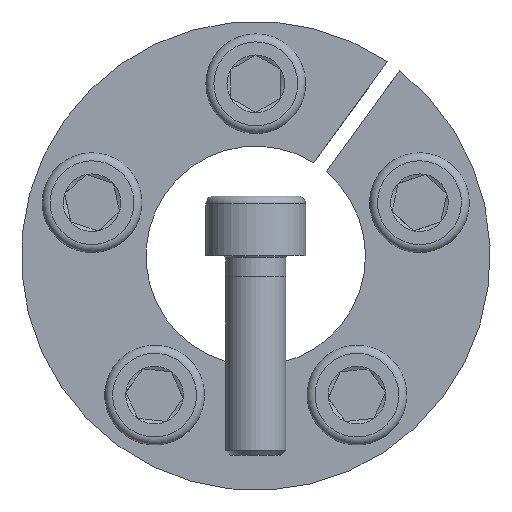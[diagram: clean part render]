
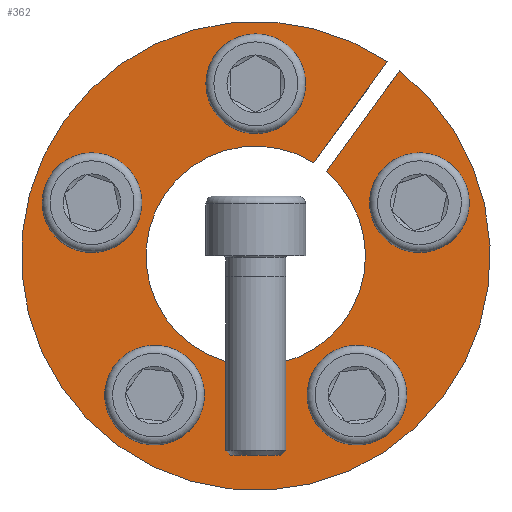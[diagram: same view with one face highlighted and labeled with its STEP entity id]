
A CAD part, front view. The second image highlights one B-rep face of the part: STEP entity #362.
In plain terms, the highlighted planar face has unit normal (0, -1, 0).
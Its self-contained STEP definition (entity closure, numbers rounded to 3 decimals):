
#362 = ADVANCED_FACE( '', ( #559, #560, #561, #562, #563, #564 ), #565, .F. );
#559 = FACE_BOUND( '', #693, .T. );
#560 = FACE_BOUND( '', #694, .T. );
#561 = FACE_OUTER_BOUND( '', #695, .T. );
#562 = FACE_BOUND( '', #696, .T. );
#563 = FACE_BOUND( '', #697, .T. );
#564 = FACE_BOUND( '', #698, .T. );
#565 = PLANE( '', #699 );
#693 = EDGE_LOOP( '', ( #876 ) );
#694 = EDGE_LOOP( '', ( #877 ) );
#695 = EDGE_LOOP( '', ( #878, #879, #880, #881 ) );
#696 = EDGE_LOOP( '', ( #882 ) );
#697 = EDGE_LOOP( '', ( #883 ) );
#698 = EDGE_LOOP( '', ( #884 ) );
#699 = AXIS2_PLACEMENT_3D( '', #885, #886, #887 );
#876 = ORIENTED_EDGE( '', *, *, #1168, .T. );
#877 = ORIENTED_EDGE( '', *, *, #1169, .T. );
#878 = ORIENTED_EDGE( '', *, *, #1166, .F. );
#879 = ORIENTED_EDGE( '', *, *, #1162, .F. );
#880 = ORIENTED_EDGE( '', *, *, #1170, .T. );
#881 = ORIENTED_EDGE( '', *, *, #1171, .F. );
#882 = ORIENTED_EDGE( '', *, *, #1172, .T. );
#883 = ORIENTED_EDGE( '', *, *, #1173, .T. );
#884 = ORIENTED_EDGE( '', *, *, #1174, .T. );
#885 = CARTESIAN_POINT( '', ( 0., 0., 23.5 ) );
#886 = DIRECTION( '', ( 0., 1., 0. ) );
#887 = DIRECTION( '', ( 0., 0., 1. ) );
#1162 = EDGE_CURVE( '', #1285, #1287, #1288, .T. );
#1166 = EDGE_CURVE( '', #1287, #1294, #1295, .T. );
#1168 = EDGE_CURVE( '', #1297, #1297, #1298, .T. );
#1169 = EDGE_CURVE( '', #1299, #1299, #1300, .T. );
#1170 = EDGE_CURVE( '', #1285, #1301, #1302, .T. );
#1171 = EDGE_CURVE( '', #1294, #1301, #1303, .T. );
#1172 = EDGE_CURVE( '', #1304, #1304, #1305, .T. );
#1173 = EDGE_CURVE( '', #1306, #1306, #1307, .T. );
#1174 = EDGE_CURVE( '', #1308, #1308, #1309, .T. );
#1285 = VERTEX_POINT( '', #1389 );
#1287 = VERTEX_POINT( '', #1392 );
#1288 = LINE( '', #1393, #1394 );
#1294 = VERTEX_POINT( '', #1402 );
#1295 = CIRCLE( '', #1403, 11. );
#1297 = VERTEX_POINT( '', #1406 );
#1298 = CIRCLE( '', #1407, 3. );
#1299 = VERTEX_POINT( '', #1408 );
#1300 = CIRCLE( '', #1409, 3. );
#1301 = VERTEX_POINT( '', #1410 );
#1302 = CIRCLE( '', #1411, 23.5 );
#1303 = LINE( '', #1412, #1413 );
#1304 = VERTEX_POINT( '', #1414 );
#1305 = CIRCLE( '', #1415, 3. );
#1306 = VERTEX_POINT( '', #1416 );
#1307 = CIRCLE( '', #1417, 3. );
#1308 = VERTEX_POINT( '', #1418 );
#1309 = CIRCLE( '', #1419, 3. );
#1389 = CARTESIAN_POINT( '', ( 13.182, 0., 19.455 ) );
#1392 = CARTESIAN_POINT( '', ( 5.826, 0., 9.33 ) );
#1393 = CARTESIAN_POINT( '', ( 13.19, 0., 19.465 ) );
#1394 = VECTOR( '', #1488, 1000. );
#1402 = CARTESIAN_POINT( '', ( 7.073, 0., 8.424 ) );
#1403 = AXIS2_PLACEMENT_3D( '', #1494, #1495, #1496 );
#1406 = CARTESIAN_POINT( '', ( -12.566, 0., -12.192 ) );
#1407 = AXIS2_PLACEMENT_3D( '', #1498, #1499, #1500 );
#1408 = CARTESIAN_POINT( '', ( 17.333, 0., 2.477 ) );
#1409 = AXIS2_PLACEMENT_3D( '', #1501, #1502, #1503 );
#1410 = CARTESIAN_POINT( '', ( 14.429, 0., 18.549 ) );
#1411 = AXIS2_PLACEMENT_3D( '', #1504, #1505, #1506 );
#1412 = CARTESIAN_POINT( '', ( 7.073, 0., 8.424 ) );
#1413 = VECTOR( '', #1507, 1000. );
#1414 = CARTESIAN_POINT( '', ( 3., 0., 17.25 ) );
#1415 = AXIS2_PLACEMENT_3D( '', #1508, #1509, #1510 );
#1416 = CARTESIAN_POINT( '', ( 7.712, 0., -15.719 ) );
#1417 = AXIS2_PLACEMENT_3D( '', #1511, #1512, #1513 );
#1418 = CARTESIAN_POINT( '', ( -15.479, 0., 8.184 ) );
#1419 = AXIS2_PLACEMENT_3D( '', #1514, #1515, #1516 );
#1488 = DIRECTION( '', ( -0.588, 0., -0.809 ) );
#1494 = CARTESIAN_POINT( '', ( 0., 0., 0. ) );
#1495 = DIRECTION( '', ( 0., -1., 0. ) );
#1496 = DIRECTION( '', ( 0., 0., -1. ) );
#1498 = CARTESIAN_POINT( '', ( -10.139, 0., -13.956 ) );
#1499 = DIRECTION( '', ( 0., 1., 0. ) );
#1500 = DIRECTION( '', ( -0.809, 0., 0.588 ) );
#1501 = CARTESIAN_POINT( '', ( 16.406, 0., 5.331 ) );
#1502 = DIRECTION( '', ( 0., 1., 0. ) );
#1503 = DIRECTION( '', ( 0.309, 0., -0.951 ) );
#1504 = CARTESIAN_POINT( '', ( 0., 0., 0. ) );
#1505 = DIRECTION( '', ( 0., -1., 0. ) );
#1506 = DIRECTION( '', ( 0., 0., -1. ) );
#1507 = DIRECTION( '', ( 0.588, 0., 0.809 ) );
#1508 = CARTESIAN_POINT( '', ( 0., 0., 17.25 ) );
#1509 = DIRECTION( '', ( 0., 1., 0. ) );
#1510 = DIRECTION( '', ( 1., 0., 0. ) );
#1511 = CARTESIAN_POINT( '', ( 10.139, 0., -13.956 ) );
#1512 = DIRECTION( '', ( 0., 1., 0. ) );
#1513 = DIRECTION( '', ( -0.809, 0., -0.588 ) );
#1514 = CARTESIAN_POINT( '', ( -16.406, 0., 5.331 ) );
#1515 = DIRECTION( '', ( 0., 1., 0. ) );
#1516 = DIRECTION( '', ( 0.309, 0., 0.951 ) );
